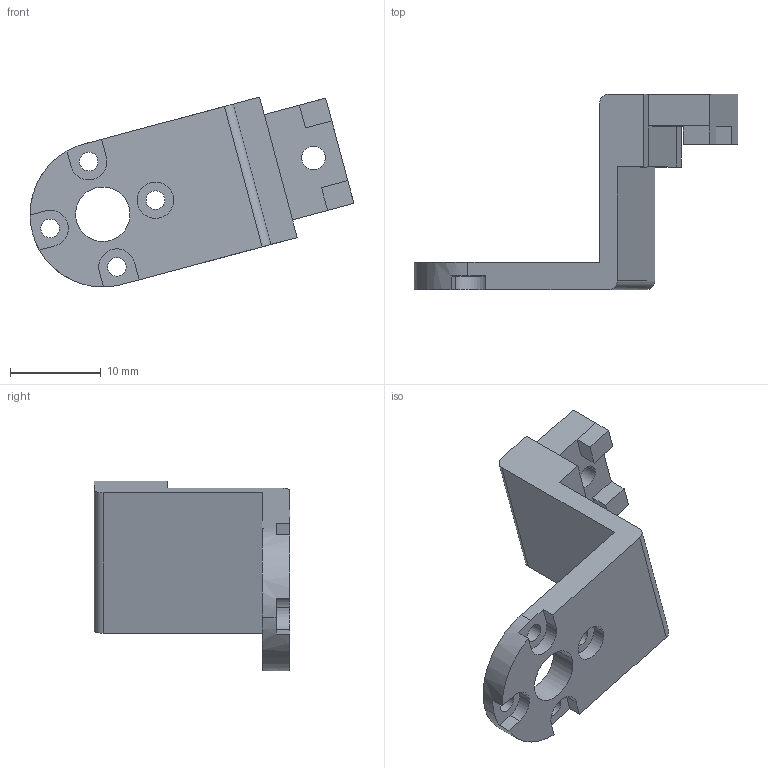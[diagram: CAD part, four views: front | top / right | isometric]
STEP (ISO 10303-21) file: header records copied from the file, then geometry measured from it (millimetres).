
FILE_DESCRIPTION (( 'STEP AP214' ), '1' );
FILE_NAME ('thumb_5.STEP', '2026-09-17T12:55:59', ( '' ), ( '' ), 'SwSTEP 2.0', 'SolidWorks 2024', '' );
FILE_SCHEMA (( 'AUTOMOTIVE_DESIGN' ));
Length unit declared in the file: millimetre
Products named in the file (2): 指套-连接.step; thumb_5
Assembly tree (1 placements, depth 2):
  thumb_5
    指套-连接.step
Bounding box: 35.63 x 21.5 x 20.9 mm (x, y, z)
Volume: 2206.4 mm3; surface area: 2103.3 mm2
Topology: 1 solids, 1 shells, 58 faces, 155 edges, 100 vertices
Faces by surface type: plane 36, cylinder 22
Entity records: 1886 total; most frequent: DIRECTION 327, CARTESIAN_POINT 317, ORIENTED_EDGE 310, EDGE_CURVE 155, AXIS2_PLACEMENT_3D 110, LINE 107, VECTOR 107, VERTEX_POINT 100
